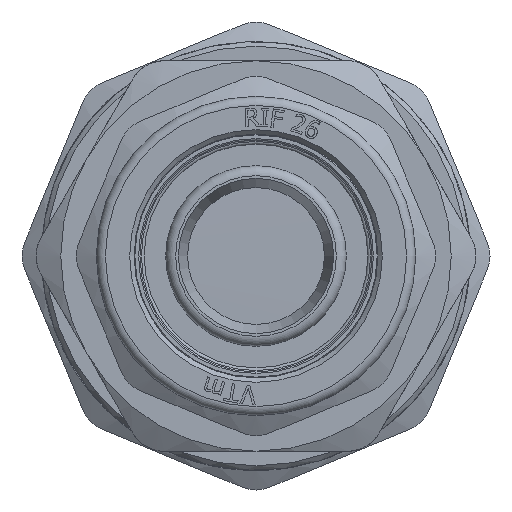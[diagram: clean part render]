
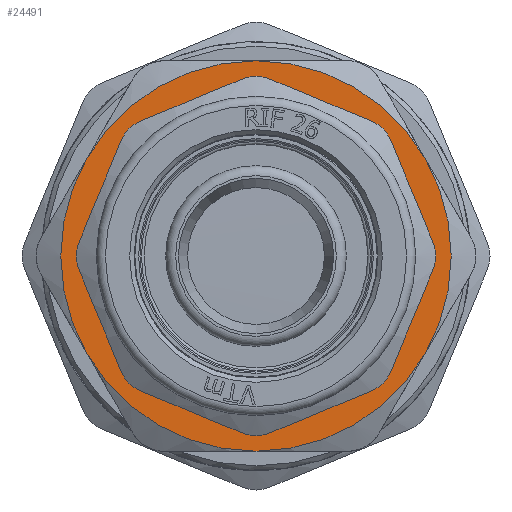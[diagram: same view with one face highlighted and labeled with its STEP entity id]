
A CAD part, left-side view. The second image highlights one B-rep face of the part: STEP entity #24491.
In plain terms, the highlighted planar face has unit normal (-1, 0, 0).
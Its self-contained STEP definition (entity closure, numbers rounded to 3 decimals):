
#268=FACE_BOUND('',#4638,.T.);
#599=PLANE('',#25630);
#1343=CIRCLE('',#24536,16.65);
#1344=CIRCLE('',#24537,16.65);
#1530=CIRCLE('',#25108,21.4);
#1531=CIRCLE('',#25110,21.4);
#1532=CIRCLE('',#25112,21.4);
#1533=CIRCLE('',#25114,21.4);
#1534=CIRCLE('',#25116,21.4);
#1881=CIRCLE('',#25629,21.4);
#3210=FACE_OUTER_BOUND('',#4637,.T.);
#4637=EDGE_LOOP('',(#22863,#22864,#22865,#22866,#22867,#22868));
#4638=EDGE_LOOP('',(#22869,#22870));
#9294=VERTEX_POINT('',#29640);
#9295=VERTEX_POINT('',#29642);
#11356=VERTEX_POINT('',#54603);
#11364=VERTEX_POINT('',#54651);
#11378=VERTEX_POINT('',#54732);
#11387=VERTEX_POINT('',#54784);
#11394=VERTEX_POINT('',#54831);
#11396=VERTEX_POINT('',#54846);
#11824=EDGE_CURVE('',#9294,#9295,#1343,.T.);
#11825=EDGE_CURVE('',#9295,#9294,#1344,.T.);
#14970=EDGE_CURVE('',#11396,#11378,#1530,.T.);
#14971=EDGE_CURVE('',#11378,#11364,#1531,.T.);
#14972=EDGE_CURVE('',#11387,#11396,#1532,.T.);
#14973=EDGE_CURVE('',#11364,#11356,#1533,.T.);
#14974=EDGE_CURVE('',#11394,#11387,#1534,.T.);
#15509=EDGE_CURVE('',#11356,#11394,#1881,.T.);
#22863=ORIENTED_EDGE('',*,*,#14970,.T.);
#22864=ORIENTED_EDGE('',*,*,#14971,.T.);
#22865=ORIENTED_EDGE('',*,*,#14973,.T.);
#22866=ORIENTED_EDGE('',*,*,#15509,.T.);
#22867=ORIENTED_EDGE('',*,*,#14974,.T.);
#22868=ORIENTED_EDGE('',*,*,#14972,.T.);
#22869=ORIENTED_EDGE('',*,*,#11825,.F.);
#22870=ORIENTED_EDGE('',*,*,#11824,.F.);
#24491=ADVANCED_FACE('',(#3210,#268),#599,.T.);
#24536=AXIS2_PLACEMENT_3D('',#29643,#25697,#25698);
#24537=AXIS2_PLACEMENT_3D('',#29644,#25699,#25700);
#25108=AXIS2_PLACEMENT_3D('',#54864,#28238,#28239);
#25110=AXIS2_PLACEMENT_3D('',#54866,#28242,#28243);
#25112=AXIS2_PLACEMENT_3D('',#54868,#28246,#28247);
#25114=AXIS2_PLACEMENT_3D('',#54870,#28250,#28251);
#25116=AXIS2_PLACEMENT_3D('',#54872,#28254,#28255);
#25629=AXIS2_PLACEMENT_3D('',#56220,#29372,#29373);
#25630=AXIS2_PLACEMENT_3D('',#56221,#29374,#29375);
#25697=DIRECTION('center_axis',(-1.,0.,0.));
#25698=DIRECTION('ref_axis',(0.,0.,1.));
#25699=DIRECTION('center_axis',(-1.,0.,0.));
#25700=DIRECTION('ref_axis',(0.,0.,1.));
#28238=DIRECTION('center_axis',(-1.,0.,0.));
#28239=DIRECTION('ref_axis',(0.,0.,1.));
#28242=DIRECTION('center_axis',(-1.,0.,0.));
#28243=DIRECTION('ref_axis',(0.,0.,1.));
#28246=DIRECTION('center_axis',(-1.,0.,0.));
#28247=DIRECTION('ref_axis',(0.,0.,1.));
#28250=DIRECTION('center_axis',(-1.,0.,0.));
#28251=DIRECTION('ref_axis',(0.,0.,1.));
#28254=DIRECTION('center_axis',(-1.,0.,0.));
#28255=DIRECTION('ref_axis',(0.,0.,1.));
#29372=DIRECTION('center_axis',(-1.,0.,0.));
#29373=DIRECTION('ref_axis',(0.,0.,1.));
#29374=DIRECTION('center_axis',(-1.,0.,0.));
#29375=DIRECTION('ref_axis',(0.,0.,1.));
#29640=CARTESIAN_POINT('',(-5.25,16.65,0.));
#29642=CARTESIAN_POINT('',(-5.25,-16.65,0.));
#29643=CARTESIAN_POINT('Origin',(-5.25,0.,
0.));
#29644=CARTESIAN_POINT('Origin',(-5.25,0.,
0.));
#54603=CARTESIAN_POINT('',(-5.25,18.533,10.7));
#54651=CARTESIAN_POINT('',(-5.25,0.,21.4));
#54732=CARTESIAN_POINT('',(-5.25,-18.533,10.7));
#54784=CARTESIAN_POINT('',(-5.25,0.,-21.4));
#54831=CARTESIAN_POINT('',(-5.25,18.533,-10.7));
#54846=CARTESIAN_POINT('',(-5.25,-18.533,-10.7));
#54864=CARTESIAN_POINT('Origin',(-5.25,0.,
0.));
#54866=CARTESIAN_POINT('Origin',(-5.25,0.,
0.));
#54868=CARTESIAN_POINT('Origin',(-5.25,0.,
0.));
#54870=CARTESIAN_POINT('Origin',(-5.25,0.,
0.));
#54872=CARTESIAN_POINT('Origin',(-5.25,0.,
0.));
#56220=CARTESIAN_POINT('Origin',(-5.25,0.,
0.));
#56221=CARTESIAN_POINT('Origin',(-5.25,-16.65,0.));
